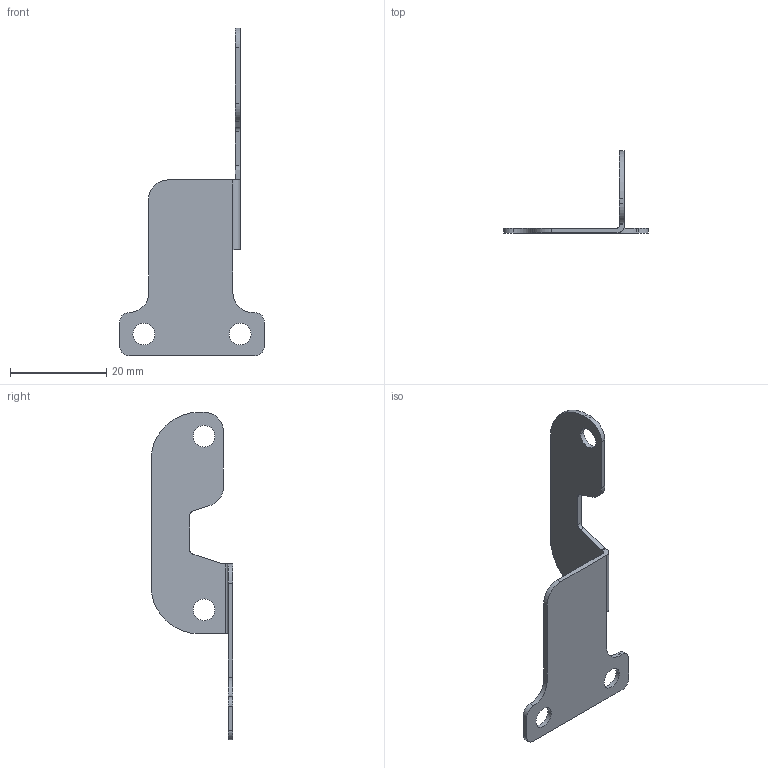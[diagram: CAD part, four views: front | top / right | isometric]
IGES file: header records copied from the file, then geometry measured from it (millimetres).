
Start section:  PTC IGES file: 2038826
Global section: file name: 2038826; native system: Creo Parametric by PTC Inc.; preprocessor: 2019292; author: l.wegerer; organization: Unknown; date: 20260629.071717; units: millimetre
Bounding box: 30 x 17 x 68 mm (x, y, z)
Surface area: 2846.2 mm2 (no closed solid volume)
Topology: 0 solids, 0 shells, 42 faces, 244 edges, 244 vertices
Faces by surface type: revolution 24, bspline 18
